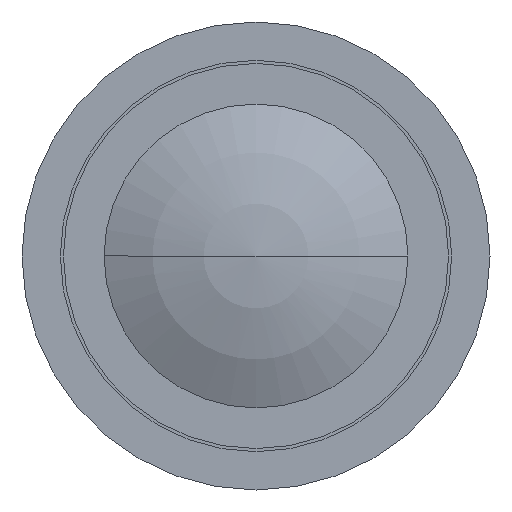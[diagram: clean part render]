
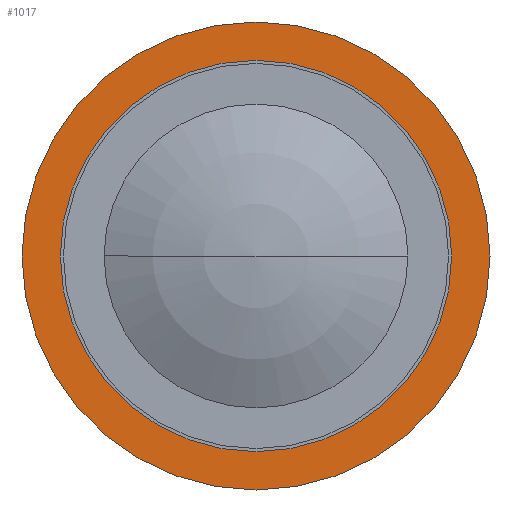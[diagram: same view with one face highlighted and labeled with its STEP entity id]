
A CAD part, left-side view. The second image highlights one B-rep face of the part: STEP entity #1017.
In plain terms, the highlighted planar face has unit normal (-1, 0, 0).
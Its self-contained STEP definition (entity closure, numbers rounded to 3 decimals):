
#201=CARTESIAN_POINT('',(148.,0.,0.));
#202=DIRECTION('',(-1.,0.,0.));
#203=DIRECTION('',(0.,1.,0.));
#204=AXIS2_PLACEMENT_3D('',#201,#202,#203);
#206=CARTESIAN_POINT('',(148.,0.,0.));
#207=DIRECTION('',(1.,0.,0.));
#208=DIRECTION('',(0.,1.,0.));
#209=AXIS2_PLACEMENT_3D('',#206,#207,#208);
#211=CARTESIAN_POINT('',(148.,0.,0.));
#212=DIRECTION('',(1.,0.,0.));
#213=DIRECTION('',(0.,1.,0.));
#214=AXIS2_PLACEMENT_3D('',#211,#212,#213);
#216=CARTESIAN_POINT('',(148.,0.,0.));
#217=DIRECTION('',(-1.,0.,0.));
#218=DIRECTION('',(0.,1.,0.));
#219=AXIS2_PLACEMENT_3D('',#216,#217,#218);
#694=CARTESIAN_POINT('',(148.,308.,0.));
#696=VERTEX_POINT('',#694);
#697=CARTESIAN_POINT('',(148.,257.5,0.));
#699=VERTEX_POINT('',#697);
#722=CARTESIAN_POINT('',(148.,-308.,0.));
#724=VERTEX_POINT('',#722);
#725=CARTESIAN_POINT('',(148.,-257.5,0.));
#727=VERTEX_POINT('',#725);
#1002=CARTESIAN_POINT('',(148.,0.,0.));
#1003=DIRECTION('',(1.,0.,0.));
#1004=DIRECTION('',(0.,-1.,0.));
#1005=AXIS2_PLACEMENT_3D('',#1002,#1003,#1004);
#1006=PLANE('',#1005);
#1008=ORIENTED_EDGE('',*,*,#1007,.T.);
#1010=ORIENTED_EDGE('',*,*,#1009,.F.);
#1011=EDGE_LOOP('',(#1008,#1010));
#1012=FACE_OUTER_BOUND('',#1011,.F.);
#1013=ORIENTED_EDGE('',*,*,#984,.T.);
#1014=ORIENTED_EDGE('',*,*,#995,.F.);
#1015=EDGE_LOOP('',(#1013,#1014));
#1016=FACE_BOUND('',#1015,.F.);
#205=CIRCLE('',#204,257.5);
#210=CIRCLE('',#209,257.5);
#215=CIRCLE('',#214,308.);
#220=CIRCLE('',#219,308.);
#984=EDGE_CURVE('',#699,#727,#205,.T.);
#995=EDGE_CURVE('',#699,#727,#210,.T.);
#1007=EDGE_CURVE('',#696,#724,#215,.T.);
#1009=EDGE_CURVE('',#696,#724,#220,.T.);
#1017=ADVANCED_FACE('',(#1012,#1016),#1006,.F.);
